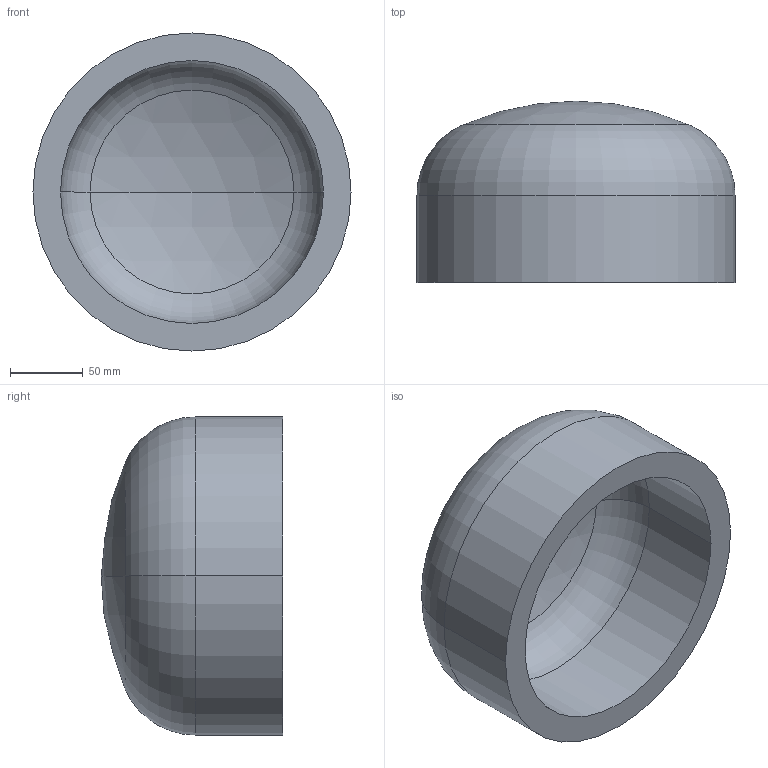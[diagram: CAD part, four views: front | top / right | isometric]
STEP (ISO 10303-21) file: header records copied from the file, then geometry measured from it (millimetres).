
FILE_DESCRIPTION (( 'STEP AP203' ), '1' );
FILE_NAME ('DIN 28013 Korbbogenform_-_Boden DIN 28013 - 219,1 x 60 - I - s=19.step', '2016-07-01T07:42:39', ( '' ), ( '' ), 'SwSTEP 2.0', 'SolidWorks 2013', '' );
FILE_SCHEMA (( 'CONFIG_CONTROL_DESIGN' ));
Length unit declared in the file: millimetre
Products named in the file (1): DIN 28013 Korbbogenform_-_Boden DIN 28013 - 219,1 x 60 - I - s=19
Bounding box: 219.1 x 124.84 x 219.1 mm (x, y, z)
Volume: 1608418.2 mm3; surface area: 182007.3 mm2
Topology: 1 solids, 1 shells, 13 faces, 24 edges, 14 vertices
Faces by surface type: torus 4, cylinder 4, sphere 4, plane 1
Entity records: 407 total; most frequent: DIRECTION 72, CARTESIAN_POINT 52, ORIENTED_EDGE 48, AXIS2_PLACEMENT_3D 34, EDGE_CURVE 24, CIRCLE 20, EDGE_LOOP 14, VERTEX_POINT 14
